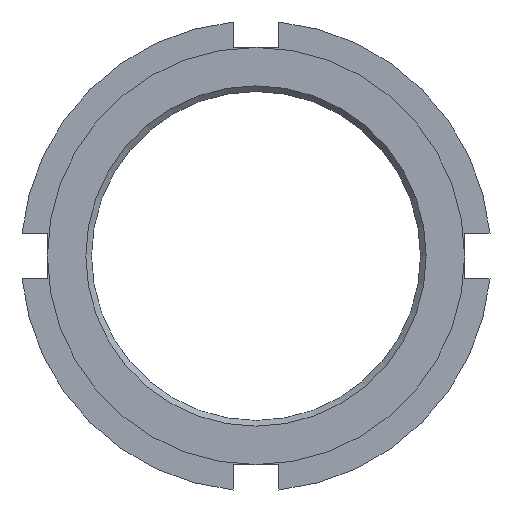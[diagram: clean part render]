
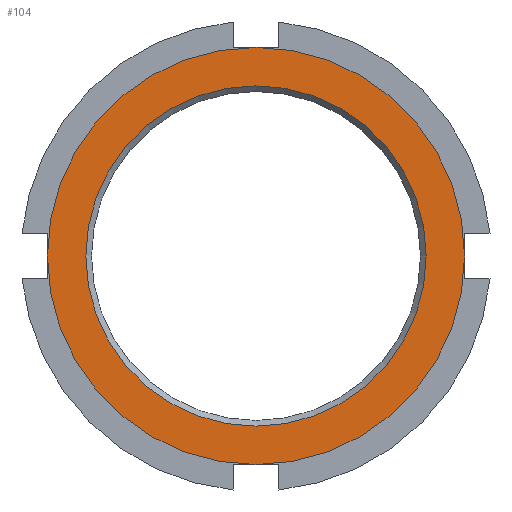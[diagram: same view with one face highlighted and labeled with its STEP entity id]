
A CAD part, left-side view. The second image highlights one B-rep face of the part: STEP entity #104.
In plain terms, the highlighted planar face has unit normal (-1, 0, 0).
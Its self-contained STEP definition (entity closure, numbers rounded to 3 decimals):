
#104 = ADVANCED_FACE( '', ( #177, #178 ), #179, .F. );
#177 = FACE_OUTER_BOUND( '', #255, .T. );
#178 = FACE_BOUND( '', #256, .T. );
#179 = PLANE( '', #257 );
#255 = EDGE_LOOP( '', ( #475 ) );
#256 = EDGE_LOOP( '', ( #476 ) );
#257 = AXIS2_PLACEMENT_3D( '', #477, #478, #479 );
#475 = ORIENTED_EDGE( '', *, *, #570, .F. );
#476 = ORIENTED_EDGE( '', *, *, #550, .T. );
#477 = CARTESIAN_POINT( '', ( 0., 0., 0. ) );
#478 = DIRECTION( '', ( 1., 0., 0. ) );
#479 = DIRECTION( '', ( 0., 0., -1. ) );
#550 = EDGE_CURVE( '', #656, #656, #657, .T. );
#570 = EDGE_CURVE( '', #684, #684, #685, .T. );
#656 = VERTEX_POINT( '', #841 );
#657 = CIRCLE( '', #842, 22.438 );
#684 = VERTEX_POINT( '', #880 );
#685 = CIRCLE( '', #881, 27.5 );
#841 = CARTESIAN_POINT( '', ( 0., 0., -22.438 ) );
#842 = AXIS2_PLACEMENT_3D( '', #971, #972, #973 );
#880 = CARTESIAN_POINT( '', ( 0., 0., -27.5 ) );
#881 = AXIS2_PLACEMENT_3D( '', #1018, #1019, #1020 );
#971 = CARTESIAN_POINT( '', ( 0., 0., 0. ) );
#972 = DIRECTION( '', ( 1., 0., 0. ) );
#973 = DIRECTION( '', ( 0., 0., -1. ) );
#1018 = CARTESIAN_POINT( '', ( 0., 0., 0. ) );
#1019 = DIRECTION( '', ( 1., 0., 0. ) );
#1020 = DIRECTION( '', ( 0., 0., -1. ) );
